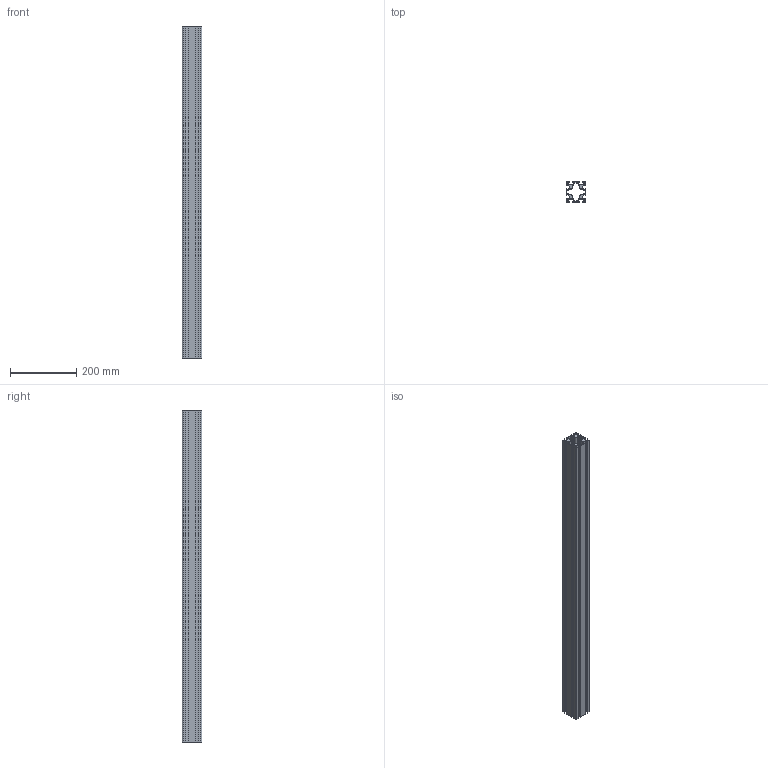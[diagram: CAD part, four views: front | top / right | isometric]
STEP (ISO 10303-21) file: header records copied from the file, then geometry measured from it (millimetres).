
FILE_DESCRIPTION (( 'STEP AP214' ), '1' );
FILE_NAME ('SA01005.step', '2024-12-03T16:28:26', ( '' ), ( '' ), 'SwSTEP 2.0', 'SolidWorks 2023', '' );
FILE_SCHEMA (( 'AUTOMOTIVE_DESIGN' ));
Length unit declared in the file: millimetre
Products named in the file (1): SA01005
Bounding box: 60 x 60 x 1000 mm (x, y, z)
Volume: 1109474.4 mm3; surface area: 682071.4 mm2
Topology: 1 solids, 1 shells, 126 faces, 372 edges, 248 vertices
Faces by surface type: plane 66, cylinder 60
Full cylindrical faces by diameter (mm): 4.65 x4
Entity records: 4259 total; most frequent: CARTESIAN_POINT 743, DIRECTION 742, ORIENTED_EDGE 736, EDGE_CURVE 368, VECTOR 248, LINE 248, VERTEX_POINT 248, AXIS2_PLACEMENT_3D 247
